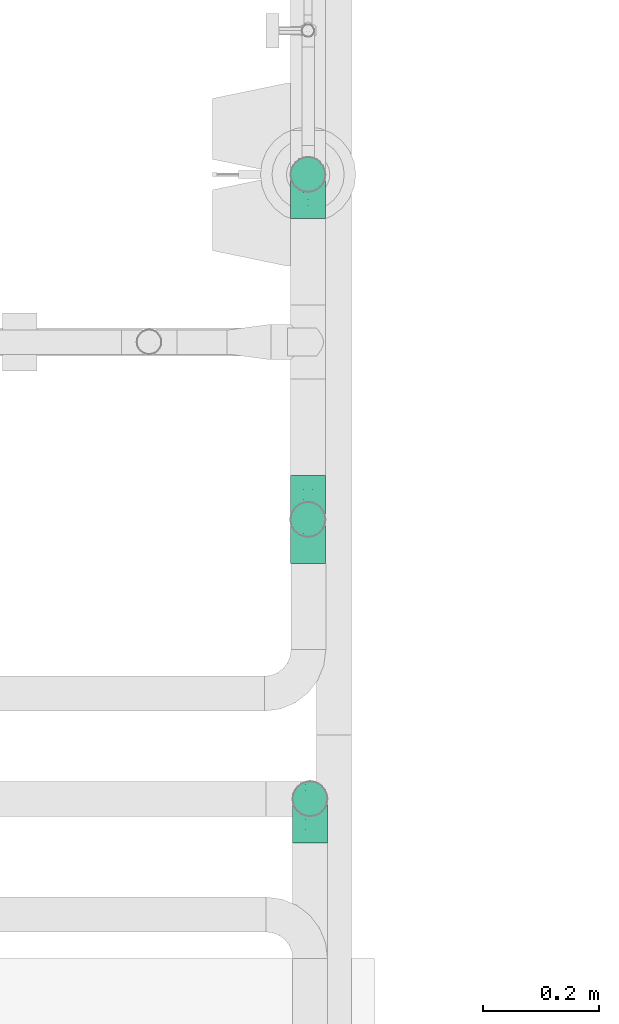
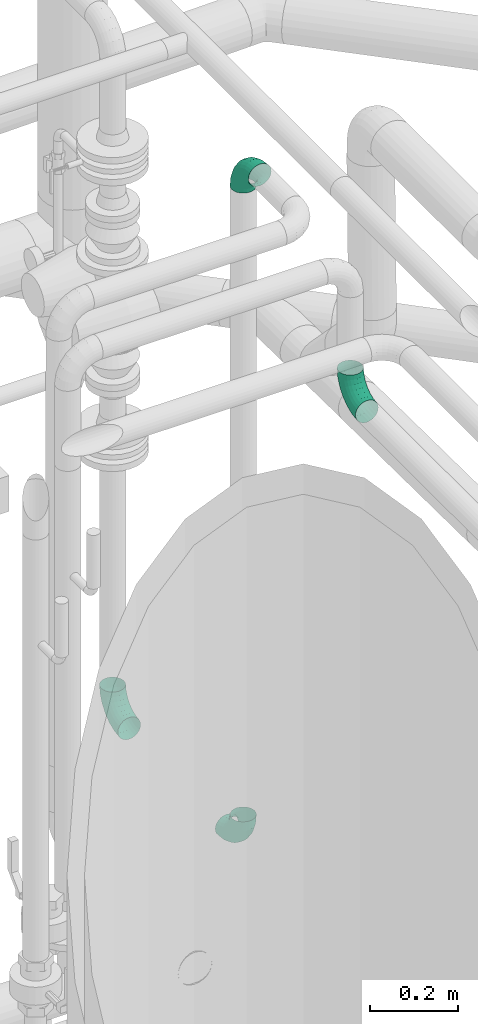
# One storey, part 116 of 374: 4 flow segments.
"""IFC2X3 building model written with IfcOpenShell, lengths in metres."""

import ifcopenshell
import ifcopenshell.guid

model = None  # the IFC model being written
_history = None  # IfcOwnerHistory: only IFC2X3 demands one
_inside = {}  # id of a spatial element -> (the spatial element, [elements in it])
_under = {}  # id of a project, library or spatial element -> (it, [spatial elements below it])
_declared = {}  # id of a project -> (the project, [libraries it declares])
_typed = {}  # id of a type object -> (the type object, [elements of that type])
_made_of = {}  # id of a material, layer set ... -> (it, [elements and type objects made of it])


def new_model(schema):
    """Start an empty IFC model of exactly this schema.

    Asked for "IFC4X3", IfcOpenShell would pick the latest addendum, in which some entities
    have other attributes; the version numbers below select the first issue.
    IFC2X3 requires an IfcOwnerHistory on every rooted entity: one is made here for all.
    """
    global model, _history
    if schema == "IFC4X3":
        model = ifcopenshell.file(schema_version=(4, 3, 0, 0))
    else:
        model = ifcopenshell.file(schema=schema)
    _inside.clear()
    _under.clear()
    _declared.clear()
    _typed.clear()
    _made_of.clear()
    _history = None
    if model.schema == "IFC2X3":
        org = make("IfcOrganization", Name="unknown")
        user = make(
            "IfcPersonAndOrganization",
            ThePerson=make("IfcPerson", FamilyName="unknown"),
            TheOrganization=org,
        )
        app = make(
            "IfcApplication",
            ApplicationDeveloper=org,
            Version="unknown",
            ApplicationFullName="unknown",
            ApplicationIdentifier="unknown",
        )
        _history = make(
            "IfcOwnerHistory",
            OwningUser=user,
            OwningApplication=app,
            ChangeAction="ADDED",
            CreationDate=0,
        )
    return model


def make(cls, **values):
    """One entity of the class cls with the attributes given. An attribute that is None is left unset."""
    return model.create_entity(
        cls, **{name: value for name, value in values.items() if value is not None}
    )


def rooted(cls, **values):
    """An entity with a GlobalId (a new one), such as an element, a storey or a relation."""
    return make(cls, GlobalId=ifcopenshell.guid.new(), OwnerHistory=_history, **values)


def si_unit(unit_type, name, prefix=None):
    """IfcSIUnit, for example si_unit("LENGTHUNIT", "METRE", prefix="MILLI")."""
    return make("IfcSIUnit", UnitType=unit_type, Prefix=prefix, Name=name)


def assignment(units):
    """IfcUnitAssignment: the units of a project."""
    return None if units is None else make("IfcUnitAssignment", Units=units)


def point(xyz):
    """IfcCartesianPoint."""
    return None if xyz is None else make("IfcCartesianPoint", Coordinates=xyz)


def direction(xyz):
    """IfcDirection."""
    return None if xyz is None else make("IfcDirection", DirectionRatios=xyz)


def frame(location, z_axis=None, x_axis=None):
    """IfcAxis2Placement3D, a coordinate frame: its origin and axes. An axis left out is left unset."""
    return make(
        "IfcAxis2Placement3D",
        Location=point(location),
        Axis=direction(z_axis),
        RefDirection=direction(x_axis),
    )


def origin():
    """The frame at (0, 0, 0) with its axes left unset."""
    return frame((0.0, 0.0, 0.0))


def place(relative_to, where):
    """IfcLocalPlacement: puts the frame where relative to a parent placement (None: the world)."""
    return make(
        "IfcLocalPlacement", PlacementRelTo=relative_to, RelativePlacement=where
    )


def context(
    kind, dimensions, precision=None, world=None, true_north=None, identifier=None
):
    """IfcGeometricRepresentationContext, for example the 3D "Model" context."""
    return make(
        "IfcGeometricRepresentationContext",
        ContextIdentifier=identifier,
        ContextType=kind,
        CoordinateSpaceDimension=dimensions,
        Precision=precision,
        WorldCoordinateSystem=world,
        TrueNorth=true_north,
    )


def subcontext(parent, identifier, kind, view, scale=None):
    """IfcGeometricRepresentationSubContext, for example "Body" below "Model"."""
    return make(
        "IfcGeometricRepresentationSubContext",
        ContextIdentifier=identifier,
        ContextType=kind,
        ParentContext=parent,
        TargetScale=scale,
        TargetView=view,
    )


def project(units=None, contexts=None):
    """IfcProject with its units and contexts."""
    return rooted(
        "IfcProject",
        Name="project",
        RepresentationContexts=contexts,
        UnitsInContext=assignment(units),
    )


def spatial(cls, under=None, at=None, **own):
    """A site, building, storey or space (cls), placed at a placement, below another one or the project."""
    s = rooted(cls, ObjectPlacement=at, **own)
    if under is not None:
        _under.setdefault(under.id(), (under, []))[1].append(s)
    return s


def faces_of(points, faces, orient=None, outer=None):
    """IfcFace entities. A face is a list of loops; a loop is a list of indices into points, from 0.

    orient and outer hold one flag for each loop. By default every Orientation is true, the
    first loop of a face is its IfcFaceOuterBound and the others are IfcFaceBound.
    """
    made = []
    for i, loops in enumerate(faces):
        bounds = []
        for j, loop in enumerate(loops):
            is_outer = j == 0 if outer is None else outer[i][j]
            bounds.append(
                make(
                    "IfcFaceOuterBound" if is_outer else "IfcFaceBound",
                    Bound=make("IfcPolyLoop", Polygon=[points[k] for k in loop]),
                    Orientation=True if orient is None else orient[i][j],
                )
            )
        made.append(make("IfcFace", Bounds=bounds))
    return made


def open_shell(faces, orient=None, outer=None):
    """The faces of one IfcOpenShell. surface_model builds it on its shared points."""
    return ("IfcOpenShell", faces, orient, outer)


def surface_model(cls, points, shells):
    """IfcFaceBasedSurfaceModel or IfcShellBasedSurfaceModel (cls): surfaces that need not close."""
    shared = [point(p) for p in points]
    made = [make(c, CfsFaces=faces_of(shared, fs, o, b)) for c, fs, o, b in shells]
    if cls == "IfcFaceBasedSurfaceModel":
        return make(cls, FbsmFaces=made)
    return make(cls, SbsmBoundary=made)


def shape(context_of_items, identifier, shape_type, items):
    """IfcShapeRepresentation: the items that make up one representation, for example the "Body"."""
    return make(
        "IfcShapeRepresentation",
        ContextOfItems=context_of_items,
        RepresentationIdentifier=identifier,
        RepresentationType=shape_type,
        Items=items,
    )


def source(mapping_origin, context_of_items, identifier, shape_type, items):
    """IfcRepresentationMap: a shape defined once, which mapped items show again and again."""
    return make(
        "IfcRepresentationMap",
        MappingOrigin=mapping_origin,
        MappedRepresentation=shape(context_of_items, identifier, shape_type, items),
    )


def transform(
    local_origin,
    x_axis=None,
    y_axis=None,
    z_axis=None,
    scale=None,
    scale2=None,
    scale3=None,
    uniform=True,
):
    """IfcCartesianTransformationOperator3D, or its non-uniform kind. x_axis, y_axis, z_axis: its Axis1, 2, 3."""
    if uniform:
        return make(
            "IfcCartesianTransformationOperator3D",
            Axis1=direction(x_axis),
            Axis2=direction(y_axis),
            LocalOrigin=point(local_origin),
            Scale=scale,
            Axis3=direction(z_axis),
        )
    return make(
        "IfcCartesianTransformationOperator3DnonUniform",
        Axis1=direction(x_axis),
        Axis2=direction(y_axis),
        LocalOrigin=point(local_origin),
        Scale=scale,
        Axis3=direction(z_axis),
        Scale2=scale2,
        Scale3=scale3,
    )


def mapped(mapping_source, mapping_target):
    """IfcMappedItem: shows the shape of a source again, moved by a transform."""
    return make(
        "IfcMappedItem", MappingSource=mapping_source, MappingTarget=mapping_target
    )


def made_of(thing, what):
    """Note that an element or type object is made of a material, layer set ...; save() writes the relation."""
    if what is not None:
        _made_of.setdefault(what.id(), (what, []))[1].append(thing)
    return thing


def element(
    cls,
    number,
    at=None,
    inside=None,
    cuts=None,
    type_object=None,
    material=None,
    context=None,
    identifier="Body",
    shape_type=None,
    held_by="IfcProductDefinitionShape",
    body=None,
    shapes=None,
    **own,
):
    """One element of the class cls, such as IfcWall. Its Tag is "e" and its number.

    at: its placement. inside: the storey or other place that contains it. cuts: it is an
    opening in that element (IfcRelVoidsElement). A single representation is given by context,
    identifier, shape_type and body (its items); several are given by shapes. held_by: the class
    of the entity that holds the representations. save() writes the other relations.
    """
    e = rooted(cls, Tag="e%d" % number, ObjectPlacement=at, **own)
    if body is not None:
        shapes = [shape(context, identifier, shape_type, body)]
    if shapes is not None:
        e.Representation = make(held_by, Representations=shapes)
    if inside is not None:
        _inside.setdefault(inside.id(), (inside, []))[1].append(e)
    if cuts is not None:
        rooted(
            "IfcRelVoidsElement", RelatingBuildingElement=cuts, RelatedOpeningElement=e
        )
    if type_object is not None:
        _typed.setdefault(type_object.id(), (type_object, []))[1].append(e)
    return made_of(e, material)


def aggregate(whole, parts):
    """IfcRelAggregates: a whole, such as a stair, and the parts it consists of."""
    return rooted("IfcRelAggregates", RelatingObject=whole, RelatedObjects=parts)


def save(model, path):
    """Write the relations noted so far, then the file.

    IfcRelAggregates (storeys below a building ...), IfcRelContainedInSpatialStructure (elements
    in a storey), IfcRelDefinesByType, IfcRelAssociatesMaterial and IfcRelDeclares: one each for
    every whole, place, type object, material and project.
    """
    for whole, parts in _under.values():
        aggregate(whole, parts)
    for where, things in _inside.values():
        rooted(
            "IfcRelContainedInSpatialStructure",
            RelatedElements=things,
            RelatingStructure=where,
        )
    for kind, things in _typed.values():
        rooted("IfcRelDefinesByType", RelatedObjects=things, RelatingType=kind)
    for what, things in _made_of.values():
        rooted("IfcRelAssociatesMaterial", RelatedObjects=things, RelatingMaterial=what)
    for by, libraries in _declared.values():
        rooted("IfcRelDeclares", RelatingContext=by, RelatedDefinitions=libraries)
    model.write(path)


model = new_model("IFC2X3")

# Units and contexts
model_context = context("Model", 3, precision=1e-05, world=origin(), true_north=direction((-0.4480736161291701, 0.8939966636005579)))
body_context = subcontext(model_context, "Body", "Model", "MODEL_VIEW")
ifc_project = project(units=[si_unit("LENGTHUNIT", "METRE"), si_unit("AREAUNIT", "SQUARE_METRE"), si_unit("VOLUMEUNIT", "CUBIC_METRE"), si_unit("PLANEANGLEUNIT", "RADIAN"), si_unit("THERMODYNAMICTEMPERATUREUNIT", "KELVIN"), si_unit("MASSUNIT", "GRAM", prefix="KILO"), si_unit("TIMEUNIT", "SECOND")], contexts=[model_context])

# Site, building, storey
site_placement = place(None, origin())
site = spatial("IfcSite", under=ifc_project, at=site_placement, Name="Site 1", CompositionType="ELEMENT")
building_placement = place(site_placement, origin())
building = spatial("IfcBuilding", under=site, at=building_placement, Name="Undefined", CompositionType="ELEMENT")
storey_placement = place(building_placement, origin())
storey = spatial("IfcBuildingStorey", under=building, at=storey_placement, Name="Rez de chauss\x8ee", CompositionType="ELEMENT", Elevation=0.0)

# Flow segments
shared_shape_1 = source(origin(), body_context, "Body", "SurfaceModel", [
    surface_model("IfcFaceBasedSurfaceModel", [(0.027710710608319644, 4.4408921e-16, 0.0), (0.02757661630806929, 0.00786958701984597, 7.105427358e-15), (0.00013409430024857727, 0.00786958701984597, 0.0), (0.0, 0.0, 0.0), (-0.02637334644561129, 0.008788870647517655, -0.0070429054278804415), (-0.026766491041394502, 0.0009282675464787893, -0.007111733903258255), (-0.050139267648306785, 0.010564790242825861, -0.02064875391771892), (-0.050764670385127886, 0.0027215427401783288, -0.02085054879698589), (-0.06954406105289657, 0.013076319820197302, -0.03989032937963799), (-0.07035910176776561, 0.00525761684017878, -0.04028016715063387), (-0.0832653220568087, 0.01615230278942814, -0.06345635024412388), (-0.08421445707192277, 0.00836366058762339, -0.06407649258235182), (-0.09036796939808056, 0.019583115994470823, -0.08974083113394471), (-0.0913865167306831, 0.011828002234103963, -0.09061784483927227), (0.027183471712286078, 0.015466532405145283, -0.0020199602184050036), (0.0005272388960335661, 0.015466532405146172, -0.0020199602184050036), (-0.025220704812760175, 0.016359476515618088, -0.008861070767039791), (-0.048305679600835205, 0.018084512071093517, -0.02207708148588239), (-0.06715448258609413, 0.020524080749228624, -0.04076734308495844), (-0.0804825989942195, 0.023511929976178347, -0.06365814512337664), (-0.08738173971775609, 0.026844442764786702, -0.08918951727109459), (0.026558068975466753, 0.022273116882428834, -0.005922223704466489), (0.001152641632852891, 0.02227311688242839, -0.005922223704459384), (-0.02338711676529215, 0.023124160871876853, -0.012442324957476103), (-0.04538886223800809, 0.02476825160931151, -0.02503819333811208), (-0.06335321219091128, 0.027093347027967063, -0.042851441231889), (-0.07605592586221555, 0.029940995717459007, -0.06466812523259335), (-0.08263133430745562, 0.033117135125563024, -0.08900147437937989), (0.025743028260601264, 0.0278254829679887, -0.011440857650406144), (0.0019676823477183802, 0.027825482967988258, -0.011440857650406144), (-0.020997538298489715, 0.028621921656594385, -0.017542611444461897), (-0.04158759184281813, 0.03016052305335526, -0.029330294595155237), (-0.058399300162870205, 0.0323364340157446, -0.04600059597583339), (-0.07028697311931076, 0.03500136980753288, -0.06641746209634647), (-0.07644048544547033, 0.0379737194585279, -0.08918951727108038), (0.02479389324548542, 0.03174524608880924, -0.01819977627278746), (0.0029168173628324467, 0.03174524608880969, -0.01819977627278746), (-0.018214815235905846, 0.0324780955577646, -0.023814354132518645), (-0.03716091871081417, 0.033893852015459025, -0.034660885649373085), (-0.052630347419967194, 0.03589603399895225, -0.05000019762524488), (-0.06356888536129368, 0.03834819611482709, -0.06878694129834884), (-0.06923108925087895, 0.041083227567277, -0.0897408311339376), (0.023775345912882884, 0.03376528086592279, -0.02573837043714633), (0.003935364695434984, 0.03376528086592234, -0.02573837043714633), (-0.01522858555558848, 0.03442989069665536, -0.03083014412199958), (-0.0324105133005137, 0.03571381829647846, -0.040666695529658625), (-0.046439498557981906, 0.0375295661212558, -0.05457767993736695), (-0.05635948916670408, 0.039753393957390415, -0.07161508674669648), (-0.061494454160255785, 0.04223375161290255, -0.09061784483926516), (0.022756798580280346, 0.03374792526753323, -0.033542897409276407), (0.0049539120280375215, 0.033747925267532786, -0.033542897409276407), (-0.01224235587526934, 0.03434429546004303, -0.03811186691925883), (-0.027660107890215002, 0.035496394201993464, -0.04693843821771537), (-0.040248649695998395, 0.0371257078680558, -0.05942109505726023), (-0.04915009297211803, 0.039121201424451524, -0.07470916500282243), (-0.05375781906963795, 0.041346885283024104, -0.09176079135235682), (0.02180766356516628, 0.03169436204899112, -0.04108149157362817), (0.005903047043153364, 0.031694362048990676, -0.04108149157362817), (-0.00945963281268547, 0.03222714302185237, -0.045163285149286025), (-0.02323343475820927, 0.03325639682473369, -0.05304870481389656), (-0.034479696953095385, 0.034711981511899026, -0.06420037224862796), (-0.04243200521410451, 0.036494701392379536, -0.07785831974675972), (-0.04654842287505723, 0.03848306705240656, -0.09309178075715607), (0.020992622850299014, 0.02774453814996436, -0.0478404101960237), (0.006718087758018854, 0.027744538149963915, -0.0478404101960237), (-0.007070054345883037, 0.02822271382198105, -0.05150385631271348), (-0.019432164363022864, 0.0291464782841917, -0.0585810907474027), (-0.029525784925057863, 0.030452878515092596, -0.06858981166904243), (-0.03666305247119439, 0.032052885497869, -0.08084794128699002), (-0.04035757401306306, 0.03383746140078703, -0.09452010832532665), (0.020367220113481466, 0.022167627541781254, -0.05335904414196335), (0.0073434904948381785, 0.022167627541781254, -0.05335904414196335), (-0.00523646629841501, 0.02260390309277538, -0.05670148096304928), (-0.016515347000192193, 0.023446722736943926, -0.06315857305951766), (-0.025724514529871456, 0.02463864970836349, -0.07229028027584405), (-0.03223637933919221, 0.02609845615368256, -0.0834742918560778), (-0.03560716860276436, 0.027726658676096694, -0.09594843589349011), (0.019974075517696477, 0.01534368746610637, -0.05726130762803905), (0.007736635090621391, 0.01534368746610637, -0.05726130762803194), (-0.004083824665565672, 0.01575362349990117, -0.06040194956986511), (-0.014681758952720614, 0.01654555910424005, -0.06646920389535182), (-0.02333493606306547, 0.01766552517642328, -0.07504959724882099), (-0.029453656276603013, 0.01903719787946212, -0.08555839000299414), (-0.032620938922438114, 0.02056709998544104, -0.09727942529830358), (0.019839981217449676, 0.00773775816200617, -0.05928126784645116), (0.007870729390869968, 0.007737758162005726, -0.05928126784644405), (-0.003690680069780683, 0.008138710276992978, -0.062353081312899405), (-0.014056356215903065, 0.008913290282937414, -0.06828736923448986), (-0.022519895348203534, 0.01000871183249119, -0.07667971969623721), (-0.0285045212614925, 0.011350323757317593, -0.08695820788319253), (-0.03160239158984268, 0.012846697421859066, -0.09842237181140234), (0.019974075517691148, -0.00013182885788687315, -0.05928126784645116), (0.007736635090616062, -0.00013182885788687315, -0.05928126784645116), (-0.004083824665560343, 0.0002781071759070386, -0.062421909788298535), (-0.014681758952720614, 0.001070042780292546, -0.06848916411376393), (-0.02333493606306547, 0.0021900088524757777, -0.0770695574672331), (-0.029453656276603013, 0.0035616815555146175, -0.08757835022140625), (-0.032620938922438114, 0.005091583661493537, -0.09929938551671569), (0.020367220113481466, -0.007728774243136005, -0.057261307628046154), (0.0073434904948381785, -0.007728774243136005, -0.057261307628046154), (-0.00523646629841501, -0.00729249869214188, -0.06060374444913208), (-0.016515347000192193, -0.0064496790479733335, -0.06706083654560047), (-0.025724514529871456, -0.005257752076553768, -0.07619254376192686), (-0.03223637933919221, -0.0037979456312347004, -0.0873765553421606), (-0.03560716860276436, -0.0021697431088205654, -0.09985069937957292), (0.020992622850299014, -0.01453535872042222, -0.053359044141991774), (0.006718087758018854, -0.014535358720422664, -0.053359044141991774), (-0.007070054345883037, -0.01405718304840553, -0.05702249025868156), (-0.019432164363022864, -0.013133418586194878, -0.06409972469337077), (-0.029525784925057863, -0.011827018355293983, -0.07410844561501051), (-0.03666305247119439, -0.01022701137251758, -0.0863665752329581), (-0.04035757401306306, -0.008442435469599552, -0.10003874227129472), (0.02180766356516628, -0.020087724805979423, -0.04784041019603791), (0.005903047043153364, -0.020087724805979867, -0.04784041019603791), (-0.00945963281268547, -0.019554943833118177, -0.05192220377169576), (-0.02323343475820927, -0.018525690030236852, -0.0598076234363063), (-0.034479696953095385, -0.017070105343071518, -0.0709592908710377), (-0.04243200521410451, -0.015287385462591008, -0.08461723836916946), (-0.04654842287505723, -0.013299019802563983, -0.09985069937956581), (0.022756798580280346, -0.024007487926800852, -0.0410814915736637), (0.0049539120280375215, -0.024007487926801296, -0.0410814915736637), (-0.01224235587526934, -0.023411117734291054, -0.04565046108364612), (-0.027660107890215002, -0.022259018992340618, -0.054477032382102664), (-0.040248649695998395, -0.02062970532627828, -0.06695968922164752), (-0.04915009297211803, -0.018634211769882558, -0.08224775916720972), (-0.05375781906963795, -0.016408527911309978, -0.09929938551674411), (0.023775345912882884, -0.026027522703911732, -0.033542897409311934), (0.003935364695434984, -0.026027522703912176, -0.033542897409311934), (-0.01522858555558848, -0.025362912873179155, -0.038634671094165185), (-0.0324105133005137, -0.024078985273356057, -0.04847122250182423), (-0.046439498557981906, -0.02226323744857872, -0.062382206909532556), (-0.05635948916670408, -0.020039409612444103, -0.07941961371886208), (-0.061494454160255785, -0.01755905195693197, -0.09842237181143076), (0.02479389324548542, -0.02601016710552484, -0.02573837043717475), (0.0029168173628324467, -0.026010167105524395, -0.02573837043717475), (-0.018214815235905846, -0.025277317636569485, -0.031352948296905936), (-0.03716091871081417, -0.023861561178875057, -0.04219947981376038), (-0.052630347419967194, -0.021859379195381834, -0.05753879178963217), (-0.06356888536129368, -0.01940721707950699, -0.07632553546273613), (-0.06923108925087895, -0.01667218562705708, -0.0972794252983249), (0.025743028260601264, -0.023956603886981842, -0.018199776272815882), (0.0019676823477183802, -0.023956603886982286, -0.018199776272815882), (-0.020997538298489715, -0.02316016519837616, -0.024301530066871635), (-0.04158759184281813, -0.021621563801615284, -0.036089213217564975), (-0.058399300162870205, -0.019445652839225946, -0.05275951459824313), (-0.07028697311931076, -0.016780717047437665, -0.0731763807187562), (-0.07644048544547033, -0.013808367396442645, -0.09594843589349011), (0.026558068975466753, -0.020006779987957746, -0.011440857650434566), (0.001152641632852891, -0.02000677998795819, -0.01144085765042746), (-0.02338711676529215, -0.019155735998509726, -0.01796095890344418), (-0.04538886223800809, -0.01751164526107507, -0.030556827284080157), (-0.06335321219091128, -0.015186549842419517, -0.048370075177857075), (-0.07605592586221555, -0.012338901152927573, -0.07018675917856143), (-0.08263133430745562, -0.009162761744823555, -0.09452010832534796), (0.027183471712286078, -0.014429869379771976, -0.005922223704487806), (0.0005272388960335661, -0.014429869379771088, -0.005922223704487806), (-0.025220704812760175, -0.013536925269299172, -0.012763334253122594), (-0.048305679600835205, -0.011811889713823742, -0.02597934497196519), (-0.06715448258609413, -0.009372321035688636, -0.04466960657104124), (-0.0804825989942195, -0.006384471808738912, -0.06756040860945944), (-0.08738173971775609, -0.003051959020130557, -0.09309178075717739), (0.02757661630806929, -0.007605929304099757, -0.0020199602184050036), (0.00013409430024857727, -0.007605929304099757, -0.002019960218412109), (-0.02637334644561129, -0.006686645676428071, -0.00906286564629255), (-0.050139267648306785, -0.004910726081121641, -0.02266871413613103), (-0.06954406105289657, -0.0023991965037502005, -0.0419102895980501), (-0.0832653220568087, 0.0006767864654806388, -0.06547631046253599), (-0.09036796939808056, 0.004107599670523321, -0.09176079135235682)], [open_shell([[[0, 1, 2, 3]], [[3, 2, 4, 5]], [[5, 4, 6, 7]], [[7, 6, 8, 9]], [[9, 8, 10, 11]], [[11, 10, 12, 13]], [[1, 14, 15, 2]], [[2, 15, 16, 4]], [[4, 16, 17, 6]], [[6, 17, 18, 8]], [[8, 18, 19, 10]], [[10, 19, 20, 12]], [[14, 21, 22, 15]], [[15, 22, 23, 16]], [[16, 23, 24, 17]], [[17, 24, 25, 18]], [[18, 25, 26, 19]], [[19, 26, 27, 20]], [[21, 28, 29, 22]], [[22, 29, 30, 23]], [[23, 30, 31, 24]], [[24, 31, 32, 25]], [[25, 32, 33, 26]], [[26, 33, 34, 27]], [[28, 35, 36, 29]], [[29, 36, 37, 30]], [[30, 37, 38, 31]], [[31, 38, 39, 32]], [[32, 39, 40, 33]], [[33, 40, 41, 34]], [[35, 42, 43, 36]], [[36, 43, 44, 37]], [[37, 44, 45, 38]], [[38, 45, 46, 39]], [[39, 46, 47, 40]], [[40, 47, 48, 41]], [[42, 49, 50, 43]], [[43, 50, 51, 44]], [[44, 51, 52, 45]], [[45, 52, 53, 46]], [[46, 53, 54, 47]], [[47, 54, 55, 48]], [[49, 56, 57, 50]], [[50, 57, 58, 51]], [[51, 58, 59, 52]], [[52, 59, 60, 53]], [[53, 60, 61, 54]], [[54, 61, 62, 55]], [[56, 63, 64, 57]], [[57, 64, 65, 58]], [[58, 65, 66, 59]], [[59, 66, 67, 60]], [[60, 67, 68, 61]], [[61, 68, 69, 62]], [[63, 70, 71, 64]], [[64, 71, 72, 65]], [[65, 72, 73, 66]], [[66, 73, 74, 67]], [[67, 74, 75, 68]], [[68, 75, 76, 69]], [[70, 77, 78, 71]], [[71, 78, 79, 72]], [[72, 79, 80, 73]], [[73, 80, 81, 74]], [[74, 81, 82, 75]], [[75, 82, 83, 76]], [[77, 84, 85, 78]], [[78, 85, 86, 79]], [[79, 86, 87, 80]], [[80, 87, 88, 81]], [[81, 88, 89, 82]], [[82, 89, 90, 83]], [[84, 91, 92, 85]], [[85, 92, 93, 86]], [[86, 93, 94, 87]], [[87, 94, 95, 88]], [[88, 95, 96, 89]], [[89, 96, 97, 90]], [[91, 98, 99, 92]], [[92, 99, 100, 93]], [[93, 100, 101, 94]], [[94, 101, 102, 95]], [[95, 102, 103, 96]], [[96, 103, 104, 97]], [[98, 105, 106, 99]], [[99, 106, 107, 100]], [[100, 107, 108, 101]], [[101, 108, 109, 102]], [[102, 109, 110, 103]], [[103, 110, 111, 104]], [[105, 112, 113, 106]], [[106, 113, 114, 107]], [[107, 114, 115, 108]], [[108, 115, 116, 109]], [[109, 116, 117, 110]], [[110, 117, 118, 111]], [[112, 119, 120, 113]], [[113, 120, 121, 114]], [[114, 121, 122, 115]], [[115, 122, 123, 116]], [[116, 123, 124, 117]], [[117, 124, 125, 118]], [[119, 126, 127, 120]], [[120, 127, 128, 121]], [[121, 128, 129, 122]], [[122, 129, 130, 123]], [[123, 130, 131, 124]], [[124, 131, 132, 125]], [[126, 133, 134, 127]], [[127, 134, 135, 128]], [[128, 135, 136, 129]], [[129, 136, 137, 130]], [[130, 137, 138, 131]], [[131, 138, 139, 132]], [[133, 140, 141, 134]], [[134, 141, 142, 135]], [[135, 142, 143, 136]], [[136, 143, 144, 137]], [[137, 144, 145, 138]], [[138, 145, 146, 139]], [[140, 147, 148, 141]], [[141, 148, 149, 142]], [[142, 149, 150, 143]], [[143, 150, 151, 144]], [[144, 151, 152, 145]], [[145, 152, 153, 146]], [[147, 154, 155, 148]], [[148, 155, 156, 149]], [[149, 156, 157, 150]], [[150, 157, 158, 151]], [[151, 158, 159, 152]], [[152, 159, 160, 153]], [[154, 161, 162, 155]], [[155, 162, 163, 156]], [[156, 163, 164, 157]], [[157, 164, 165, 158]], [[158, 165, 166, 159]], [[159, 166, 167, 160]], [[161, 0, 3, 162]], [[162, 3, 5, 163]], [[163, 5, 7, 164]], [[164, 7, 9, 165]], [[165, 9, 11, 166]], [[166, 11, 13, 167]]])]),
])
flow_segment_1_placement = place(storey_placement, origin())
element("IfcFlowSegment", 1, at=flow_segment_1_placement, inside=storey, Name="Tube coudé", ObjectType="Tube coudé", context=body_context, shape_type="MappedRepresentation", body=[
    mapped(shared_shape_1, transform((55.00283056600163, 10.944570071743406, 1.7403107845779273), x_axis=(0.0, 0.13052619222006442, 0.9914448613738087), y_axis=(0.9915887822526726, -0.12832103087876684, 0.016893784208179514), z_axis=(0.12942830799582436, 0.983105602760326, -0.1294283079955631))),
])
shared_shape_2 = source(origin(), body_context, "Body", "SurfaceModel", [
    surface_model("IfcFaceBasedSurfaceModel", [(0.027710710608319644, 4.4408921e-16, 0.0), (0.02757661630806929, 0.00786958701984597, 7.105427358e-15), (0.00013409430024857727, 0.00786958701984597, 0.0), (0.0, 0.0, 0.0), (-0.02637334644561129, 0.008788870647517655, -0.0070429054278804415), (-0.026766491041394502, 0.0009282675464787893, -0.007111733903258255), (-0.050139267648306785, 0.010564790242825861, -0.02064875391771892), (-0.050764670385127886, 0.0027215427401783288, -0.02085054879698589), (-0.06954406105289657, 0.013076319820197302, -0.03989032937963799), (-0.07035910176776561, 0.00525761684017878, -0.04028016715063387), (-0.0832653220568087, 0.01615230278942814, -0.06345635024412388), (-0.08421445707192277, 0.00836366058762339, -0.06407649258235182), (-0.09036796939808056, 0.019583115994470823, -0.08974083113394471), (-0.0913865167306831, 0.011828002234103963, -0.09061784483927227), (0.027183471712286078, 0.015466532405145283, -0.0020199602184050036), (0.0005272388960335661, 0.015466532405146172, -0.0020199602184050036), (-0.025220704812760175, 0.016359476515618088, -0.008861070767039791), (-0.048305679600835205, 0.018084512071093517, -0.02207708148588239), (-0.06715448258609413, 0.020524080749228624, -0.04076734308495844), (-0.0804825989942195, 0.023511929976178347, -0.06365814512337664), (-0.08738173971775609, 0.026844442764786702, -0.08918951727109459), (0.026558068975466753, 0.022273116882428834, -0.005922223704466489), (0.001152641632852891, 0.02227311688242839, -0.005922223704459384), (-0.02338711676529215, 0.023124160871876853, -0.012442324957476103), (-0.04538886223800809, 0.02476825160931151, -0.02503819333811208), (-0.06335321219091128, 0.027093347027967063, -0.042851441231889), (-0.07605592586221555, 0.029940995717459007, -0.06466812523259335), (-0.08263133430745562, 0.033117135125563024, -0.08900147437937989), (0.025743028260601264, 0.0278254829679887, -0.011440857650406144), (0.0019676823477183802, 0.027825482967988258, -0.011440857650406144), (-0.020997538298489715, 0.028621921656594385, -0.017542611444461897), (-0.04158759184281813, 0.03016052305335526, -0.029330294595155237), (-0.058399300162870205, 0.0323364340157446, -0.04600059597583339), (-0.07028697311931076, 0.03500136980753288, -0.06641746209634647), (-0.07644048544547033, 0.0379737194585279, -0.08918951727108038), (0.02479389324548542, 0.03174524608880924, -0.01819977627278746), (0.0029168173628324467, 0.03174524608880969, -0.01819977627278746), (-0.018214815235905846, 0.0324780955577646, -0.023814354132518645), (-0.03716091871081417, 0.033893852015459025, -0.034660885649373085), (-0.052630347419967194, 0.03589603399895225, -0.05000019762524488), (-0.06356888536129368, 0.03834819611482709, -0.06878694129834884), (-0.06923108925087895, 0.041083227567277, -0.0897408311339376), (0.023775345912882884, 0.03376528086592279, -0.02573837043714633), (0.003935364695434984, 0.03376528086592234, -0.02573837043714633), (-0.01522858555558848, 0.03442989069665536, -0.03083014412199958), (-0.0324105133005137, 0.03571381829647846, -0.040666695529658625), (-0.046439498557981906, 0.0375295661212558, -0.05457767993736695), (-0.05635948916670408, 0.039753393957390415, -0.07161508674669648), (-0.061494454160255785, 0.04223375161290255, -0.09061784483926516), (0.022756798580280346, 0.03374792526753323, -0.033542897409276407), (0.0049539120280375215, 0.033747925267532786, -0.033542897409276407), (-0.01224235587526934, 0.03434429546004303, -0.03811186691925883), (-0.027660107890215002, 0.035496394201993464, -0.04693843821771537), (-0.040248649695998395, 0.0371257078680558, -0.05942109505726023), (-0.04915009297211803, 0.039121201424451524, -0.07470916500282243), (-0.05375781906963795, 0.041346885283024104, -0.09176079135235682), (0.02180766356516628, 0.03169436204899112, -0.04108149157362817), (0.005903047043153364, 0.031694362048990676, -0.04108149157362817), (-0.00945963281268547, 0.03222714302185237, -0.045163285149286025), (-0.02323343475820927, 0.03325639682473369, -0.05304870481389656), (-0.034479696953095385, 0.034711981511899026, -0.06420037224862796), (-0.04243200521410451, 0.036494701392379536, -0.07785831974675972), (-0.04654842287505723, 0.03848306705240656, -0.09309178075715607), (0.020992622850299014, 0.02774453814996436, -0.0478404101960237), (0.006718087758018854, 0.027744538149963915, -0.0478404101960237), (-0.007070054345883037, 0.02822271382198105, -0.05150385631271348), (-0.019432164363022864, 0.0291464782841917, -0.0585810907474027), (-0.029525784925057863, 0.030452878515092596, -0.06858981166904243), (-0.03666305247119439, 0.032052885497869, -0.08084794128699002), (-0.04035757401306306, 0.03383746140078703, -0.09452010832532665), (0.020367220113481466, 0.022167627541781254, -0.05335904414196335), (0.0073434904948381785, 0.022167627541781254, -0.05335904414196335), (-0.00523646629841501, 0.02260390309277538, -0.05670148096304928), (-0.016515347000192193, 0.023446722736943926, -0.06315857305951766), (-0.025724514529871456, 0.02463864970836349, -0.07229028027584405), (-0.03223637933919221, 0.02609845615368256, -0.0834742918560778), (-0.03560716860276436, 0.027726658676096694, -0.09594843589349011), (0.019974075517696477, 0.01534368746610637, -0.05726130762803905), (0.007736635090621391, 0.01534368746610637, -0.05726130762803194), (-0.004083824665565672, 0.01575362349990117, -0.06040194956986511), (-0.014681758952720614, 0.01654555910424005, -0.06646920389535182), (-0.02333493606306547, 0.01766552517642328, -0.07504959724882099), (-0.029453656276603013, 0.01903719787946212, -0.08555839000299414), (-0.032620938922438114, 0.02056709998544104, -0.09727942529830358), (0.019839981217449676, 0.00773775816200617, -0.05928126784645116), (0.007870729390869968, 0.007737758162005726, -0.05928126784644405), (-0.003690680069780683, 0.008138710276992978, -0.062353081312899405), (-0.014056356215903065, 0.008913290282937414, -0.06828736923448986), (-0.022519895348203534, 0.01000871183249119, -0.07667971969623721), (-0.0285045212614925, 0.011350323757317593, -0.08695820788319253), (-0.03160239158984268, 0.012846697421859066, -0.09842237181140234), (0.019974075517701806, -0.0001318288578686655, -0.05928126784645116), (0.007736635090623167, -0.0001318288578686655, -0.059281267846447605), (-0.004083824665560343, 0.0002781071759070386, -0.062421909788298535), (-0.014681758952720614, 0.001070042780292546, -0.06848916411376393), (-0.02333493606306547, 0.0021900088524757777, -0.0770695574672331), (-0.029453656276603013, 0.0035616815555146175, -0.08757835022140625), (-0.032620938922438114, 0.005091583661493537, -0.09929938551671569), (0.020367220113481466, -0.007728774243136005, -0.057261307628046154), (0.0073434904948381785, -0.007728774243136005, -0.057261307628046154), (-0.00523646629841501, -0.00729249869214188, -0.06060374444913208), (-0.016515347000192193, -0.0064496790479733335, -0.06706083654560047), (-0.025724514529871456, -0.005257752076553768, -0.07619254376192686), (-0.03223637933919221, -0.0037979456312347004, -0.0873765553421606), (-0.03560716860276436, -0.0021697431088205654, -0.09985069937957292), (0.020992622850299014, -0.01453535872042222, -0.053359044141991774), (0.006718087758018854, -0.014535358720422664, -0.053359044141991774), (-0.007070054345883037, -0.01405718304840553, -0.05702249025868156), (-0.019432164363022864, -0.013133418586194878, -0.06409972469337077), (-0.029525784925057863, -0.011827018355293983, -0.07410844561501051), (-0.03666305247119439, -0.01022701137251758, -0.0863665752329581), (-0.04035757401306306, -0.008442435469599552, -0.10003874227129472), (0.02180766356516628, -0.020087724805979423, -0.04784041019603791), (0.005903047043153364, -0.020087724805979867, -0.04784041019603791), (-0.00945963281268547, -0.019554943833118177, -0.05192220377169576), (-0.02323343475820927, -0.018525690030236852, -0.0598076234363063), (-0.034479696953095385, -0.017070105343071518, -0.0709592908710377), (-0.04243200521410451, -0.015287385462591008, -0.08461723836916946), (-0.04654842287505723, -0.013299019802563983, -0.09985069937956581), (0.022756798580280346, -0.024007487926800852, -0.0410814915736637), (0.0049539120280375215, -0.024007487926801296, -0.0410814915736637), (-0.01224235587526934, -0.023411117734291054, -0.04565046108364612), (-0.027660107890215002, -0.022259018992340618, -0.054477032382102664), (-0.040248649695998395, -0.02062970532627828, -0.06695968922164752), (-0.04915009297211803, -0.018634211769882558, -0.08224775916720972), (-0.05375781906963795, -0.016408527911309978, -0.09929938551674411), (0.023775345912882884, -0.026027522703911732, -0.033542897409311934), (0.003935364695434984, -0.026027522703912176, -0.033542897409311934), (-0.01522858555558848, -0.025362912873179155, -0.038634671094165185), (-0.0324105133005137, -0.024078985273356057, -0.04847122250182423), (-0.046439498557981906, -0.02226323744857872, -0.062382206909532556), (-0.05635948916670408, -0.020039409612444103, -0.07941961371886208), (-0.061494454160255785, -0.01755905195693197, -0.09842237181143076), (0.02479389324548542, -0.02601016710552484, -0.02573837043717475), (0.0029168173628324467, -0.026010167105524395, -0.02573837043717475), (-0.018214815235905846, -0.025277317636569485, -0.031352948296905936), (-0.03716091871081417, -0.023861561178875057, -0.04219947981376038), (-0.052630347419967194, -0.021859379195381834, -0.05753879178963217), (-0.06356888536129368, -0.01940721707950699, -0.07632553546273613), (-0.06923108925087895, -0.01667218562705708, -0.0972794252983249), (0.025743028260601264, -0.023956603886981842, -0.018199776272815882), (0.0019676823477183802, -0.023956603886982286, -0.018199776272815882), (-0.020997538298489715, -0.02316016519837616, -0.024301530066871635), (-0.04158759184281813, -0.021621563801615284, -0.036089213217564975), (-0.058399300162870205, -0.019445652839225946, -0.05275951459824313), (-0.07028697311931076, -0.016780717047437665, -0.0731763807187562), (-0.07644048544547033, -0.013808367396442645, -0.09594843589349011), (0.026558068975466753, -0.020006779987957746, -0.011440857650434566), (0.001152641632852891, -0.02000677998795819, -0.01144085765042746), (-0.02338711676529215, -0.019155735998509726, -0.01796095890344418), (-0.04538886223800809, -0.01751164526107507, -0.030556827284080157), (-0.06335321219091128, -0.015186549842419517, -0.048370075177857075), (-0.07605592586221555, -0.012338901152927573, -0.07018675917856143), (-0.08263133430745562, -0.009162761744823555, -0.09452010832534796), (0.027183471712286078, -0.014429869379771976, -0.005922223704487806), (0.0005272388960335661, -0.014429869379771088, -0.005922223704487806), (-0.025220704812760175, -0.013536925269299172, -0.012763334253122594), (-0.048305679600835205, -0.011811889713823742, -0.02597934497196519), (-0.06715448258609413, -0.009372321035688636, -0.04466960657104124), (-0.0804825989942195, -0.006384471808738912, -0.06756040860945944), (-0.08738173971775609, -0.003051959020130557, -0.09309178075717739), (0.02757661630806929, -0.007605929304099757, -0.0020199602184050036), (0.00013409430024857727, -0.007605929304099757, -0.002019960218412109), (-0.02637334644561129, -0.006686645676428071, -0.00906286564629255), (-0.050139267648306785, -0.004910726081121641, -0.02266871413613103), (-0.06954406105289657, -0.0023991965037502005, -0.0419102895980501), (-0.0832653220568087, 0.0006767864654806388, -0.06547631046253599), (-0.09036796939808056, 0.004107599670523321, -0.09176079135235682)], [open_shell([[[0, 1, 2, 3]], [[3, 2, 4, 5]], [[5, 4, 6, 7]], [[7, 6, 8, 9]], [[9, 8, 10, 11]], [[11, 10, 12, 13]], [[1, 14, 15, 2]], [[2, 15, 16, 4]], [[4, 16, 17, 6]], [[6, 17, 18, 8]], [[8, 18, 19, 10]], [[10, 19, 20, 12]], [[14, 21, 22, 15]], [[15, 22, 23, 16]], [[16, 23, 24, 17]], [[17, 24, 25, 18]], [[18, 25, 26, 19]], [[19, 26, 27, 20]], [[21, 28, 29, 22]], [[22, 29, 30, 23]], [[23, 30, 31, 24]], [[24, 31, 32, 25]], [[25, 32, 33, 26]], [[26, 33, 34, 27]], [[28, 35, 36, 29]], [[29, 36, 37, 30]], [[30, 37, 38, 31]], [[31, 38, 39, 32]], [[32, 39, 40, 33]], [[33, 40, 41, 34]], [[35, 42, 43, 36]], [[36, 43, 44, 37]], [[37, 44, 45, 38]], [[38, 45, 46, 39]], [[39, 46, 47, 40]], [[40, 47, 48, 41]], [[42, 49, 50, 43]], [[43, 50, 51, 44]], [[44, 51, 52, 45]], [[45, 52, 53, 46]], [[46, 53, 54, 47]], [[47, 54, 55, 48]], [[49, 56, 57, 50]], [[50, 57, 58, 51]], [[51, 58, 59, 52]], [[52, 59, 60, 53]], [[53, 60, 61, 54]], [[54, 61, 62, 55]], [[56, 63, 64, 57]], [[57, 64, 65, 58]], [[58, 65, 66, 59]], [[59, 66, 67, 60]], [[60, 67, 68, 61]], [[61, 68, 69, 62]], [[63, 70, 71, 64]], [[64, 71, 72, 65]], [[65, 72, 73, 66]], [[66, 73, 74, 67]], [[67, 74, 75, 68]], [[68, 75, 76, 69]], [[70, 77, 78, 71]], [[71, 78, 79, 72]], [[72, 79, 80, 73]], [[73, 80, 81, 74]], [[74, 81, 82, 75]], [[75, 82, 83, 76]], [[77, 84, 85, 78]], [[78, 85, 86, 79]], [[79, 86, 87, 80]], [[80, 87, 88, 81]], [[81, 88, 89, 82]], [[82, 89, 90, 83]], [[84, 91, 92, 85]], [[85, 92, 93, 86]], [[86, 93, 94, 87]], [[87, 94, 95, 88]], [[88, 95, 96, 89]], [[89, 96, 97, 90]], [[91, 98, 99, 92]], [[92, 99, 100, 93]], [[93, 100, 101, 94]], [[94, 101, 102, 95]], [[95, 102, 103, 96]], [[96, 103, 104, 97]], [[98, 105, 106, 99]], [[99, 106, 107, 100]], [[100, 107, 108, 101]], [[101, 108, 109, 102]], [[102, 109, 110, 103]], [[103, 110, 111, 104]], [[105, 112, 113, 106]], [[106, 113, 114, 107]], [[107, 114, 115, 108]], [[108, 115, 116, 109]], [[109, 116, 117, 110]], [[110, 117, 118, 111]], [[112, 119, 120, 113]], [[113, 120, 121, 114]], [[114, 121, 122, 115]], [[115, 122, 123, 116]], [[116, 123, 124, 117]], [[117, 124, 125, 118]], [[119, 126, 127, 120]], [[120, 127, 128, 121]], [[121, 128, 129, 122]], [[122, 129, 130, 123]], [[123, 130, 131, 124]], [[124, 131, 132, 125]], [[126, 133, 134, 127]], [[127, 134, 135, 128]], [[128, 135, 136, 129]], [[129, 136, 137, 130]], [[130, 137, 138, 131]], [[131, 138, 139, 132]], [[133, 140, 141, 134]], [[134, 141, 142, 135]], [[135, 142, 143, 136]], [[136, 143, 144, 137]], [[137, 144, 145, 138]], [[138, 145, 146, 139]], [[140, 147, 148, 141]], [[141, 148, 149, 142]], [[142, 149, 150, 143]], [[143, 150, 151, 144]], [[144, 151, 152, 145]], [[145, 152, 153, 146]], [[147, 154, 155, 148]], [[148, 155, 156, 149]], [[149, 156, 157, 150]], [[150, 157, 158, 151]], [[151, 158, 159, 152]], [[152, 159, 160, 153]], [[154, 161, 162, 155]], [[155, 162, 163, 156]], [[156, 163, 164, 157]], [[157, 164, 165, 158]], [[158, 165, 166, 159]], [[159, 166, 167, 160]], [[161, 0, 3, 162]], [[162, 3, 5, 163]], [[163, 5, 7, 164]], [[164, 7, 9, 165]], [[165, 9, 11, 166]], [[166, 11, 13, 167]]])]),
])
flow_segment_2_placement = place(storey_placement, origin())
element("IfcFlowSegment", 2, at=flow_segment_2_placement, inside=storey, Name="Tube coudé", ObjectType="Tube coudé", context=body_context, shape_type="MappedRepresentation", body=[
    mapped(shared_shape_2, transform((54.999329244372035, 11.352473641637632, 2.0861747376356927), x_axis=(7.266545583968e-12, -0.9914448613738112, 0.13052619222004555), y_axis=(0.991588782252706, -0.016893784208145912, -0.12832103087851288), z_axis=(0.12942830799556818, 0.12942830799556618, 0.9831056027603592))),
])
flow_segment_3_placement = place(storey_placement, origin())
element("IfcFlowSegment", 3, at=flow_segment_3_placement, inside=storey, Name="Tube coudé", ObjectType="Tube coudé", context=body_context, shape_type="MappedRepresentation", body=[
    mapped(shared_shape_2, transform((54.999329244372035, 11.374466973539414, 0.2030023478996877), x_axis=(0.0, -0.1305261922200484, 0.9914448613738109), y_axis=(-0.9915887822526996, 0.12832103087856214, 0.016893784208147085), z_axis=(-0.1294283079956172, -0.9831056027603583, -0.12942830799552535))),
])
flow_segment_4_placement = place(storey_placement, origin())
element("IfcFlowSegment", 4, at=flow_segment_4_placement, inside=storey, Name="Tube coudé", ObjectType="Tube coudé", context=body_context, shape_type="MappedRepresentation", body=[
    mapped(shared_shape_2, transform((54.99932924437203, 11.949150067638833, 0.1279429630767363), x_axis=(0.0, -0.9914448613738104, -0.13052619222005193), y_axis=(-0.9915887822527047, -0.016893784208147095, 0.12832103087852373), z_axis=(-0.12942830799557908, 0.12942830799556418, -0.9831056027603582))),
])

save(model, "model.ifc")
